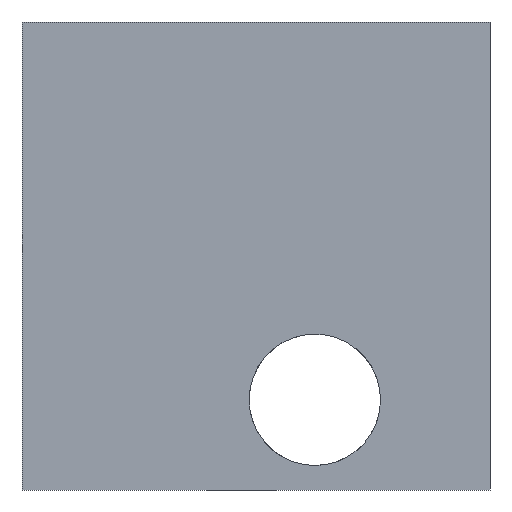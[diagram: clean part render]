
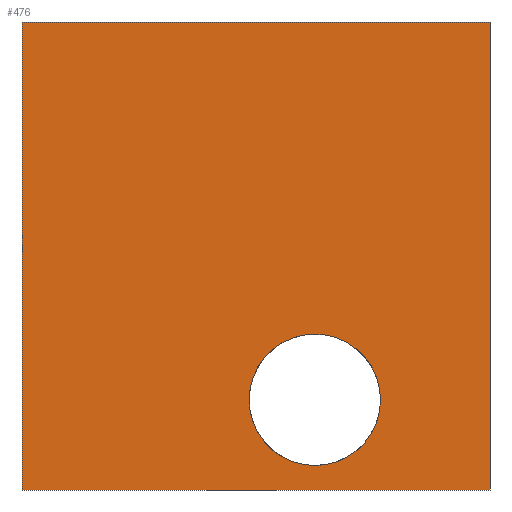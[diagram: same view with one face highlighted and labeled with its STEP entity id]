
A CAD part, front view. The second image highlights one B-rep face of the part: STEP entity #476.
In plain terms, the highlighted planar face has unit normal (0, -1, 0).
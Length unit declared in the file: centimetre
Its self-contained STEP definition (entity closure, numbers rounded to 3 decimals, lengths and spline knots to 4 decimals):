
#16 = VERTEX_POINT ( 'NONE', #1348 ) ;
#38 = CARTESIAN_POINT ( 'NONE',  ( 0., 0., 1000. ) ) ;
#77 = CARTESIAN_POINT ( 'NONE',  ( 1000., 0., 0. ) ) ;
#107 = DIRECTION ( 'NONE',  ( 1., 0., 0. ) ) ;
#116 = LINE ( 'NONE', #937, #766 ) ;
#171 = EDGE_CURVE ( 'NONE', #1454, #1444, #1142, .T. ) ;
#208 = CARTESIAN_POINT ( 'NONE',  ( 0., 0., 1000. ) ) ;
#217 = DIRECTION ( 'NONE',  ( 0., 0., 1. ) ) ;
#260 = EDGE_CURVE ( 'NONE', #618, #16, #116, .T. ) ;
#262 = EDGE_LOOP ( 'NONE', ( #369, #717 ) ) ;
#295 = EDGE_LOOP ( 'NONE', ( #1170, #1313, #972, #1102 ) ) ;
#340 = DIRECTION ( 'NONE',  ( 0., 0., -1. ) ) ;
#345 = FACE_BOUND ( 'NONE', #262, .T. ) ;
#369 = ORIENTED_EDGE ( 'NONE', *, *, #409, .F. ) ;
#409 = EDGE_CURVE ( 'NONE', #627, #1406, #441, .T. ) ;
#441 = CIRCLE ( 'NONE', #915, 140.3892 ) ;
#463 = AXIS2_PLACEMENT_3D ( 'NONE', #676, #696, #910 ) ;
#476 = ADVANCED_FACE ( 'NONE', ( #345, #1148 ), #819, .F. ) ;
#521 = CIRCLE ( 'NONE', #463, 140.3892 ) ;
#534 = EDGE_CURVE ( 'NONE', #1406, #627, #521, .T. ) ;
#535 = CARTESIAN_POINT ( 'NONE',  ( 0., 0., 1000. ) ) ;
#541 = CARTESIAN_POINT ( 'NONE',  ( 625.7103, 0., 333.1156 ) ) ;
#561 = VECTOR ( 'NONE', #912, 100. ) ;
#563 = AXIS2_PLACEMENT_3D ( 'NONE', #208, #1379, #217 ) ;
#580 = EDGE_CURVE ( 'NONE', #16, #1444, #1038, .T. ) ;
#618 = VERTEX_POINT ( 'NONE', #38 ) ;
#627 = VERTEX_POINT ( 'NONE', #1001 ) ;
#663 = VECTOR ( 'NONE', #107, 100. ) ;
#676 = CARTESIAN_POINT ( 'NONE',  ( 625.7103, 0., 192.7265 ) ) ;
#696 = DIRECTION ( 'NONE',  ( 0., -1., 0. ) ) ;
#717 = ORIENTED_EDGE ( 'NONE', *, *, #534, .F. ) ;
#725 = LINE ( 'NONE', #535, #1137 ) ;
#766 = VECTOR ( 'NONE', #340, 100. ) ;
#819 = PLANE ( 'NONE',  #563 ) ;
#849 = DIRECTION ( 'NONE',  ( 1., 0., 0. ) ) ;
#883 = DIRECTION ( 'NONE',  ( 0., -1., 0. ) ) ;
#889 = CARTESIAN_POINT ( 'NONE',  ( 625.7103, 0., 192.7265 ) ) ;
#898 = DIRECTION ( 'NONE',  ( 0., 0., -1. ) ) ;
#910 = DIRECTION ( 'NONE',  ( 0., 0., -1. ) ) ;
#912 = DIRECTION ( 'NONE',  ( 0., 0., -1. ) ) ;
#915 = AXIS2_PLACEMENT_3D ( 'NONE', #889, #883, #898 ) ;
#925 = CARTESIAN_POINT ( 'NONE',  ( 0., 0., 0. ) ) ;
#937 = CARTESIAN_POINT ( 'NONE',  ( 0., 0., 1000. ) ) ;
#972 = ORIENTED_EDGE ( 'NONE', *, *, #1350, .F. ) ;
#1001 = CARTESIAN_POINT ( 'NONE',  ( 625.7103, 0., 52.3373 ) ) ;
#1038 = LINE ( 'NONE', #925, #663 ) ;
#1102 = ORIENTED_EDGE ( 'NONE', *, *, #260, .T. ) ;
#1137 = VECTOR ( 'NONE', #849, 100. ) ;
#1142 = LINE ( 'NONE', #1381, #561 ) ;
#1148 = FACE_OUTER_BOUND ( 'NONE', #295, .T. ) ;
#1170 = ORIENTED_EDGE ( 'NONE', *, *, #580, .T. ) ;
#1267 = CARTESIAN_POINT ( 'NONE',  ( 1000., 0., 1000. ) ) ;
#1313 = ORIENTED_EDGE ( 'NONE', *, *, #171, .F. ) ;
#1348 = CARTESIAN_POINT ( 'NONE',  ( 0., 0., 0. ) ) ;
#1350 = EDGE_CURVE ( 'NONE', #618, #1454, #725, .T. ) ;
#1379 = DIRECTION ( 'NONE',  ( 0., 1., 0. ) ) ;
#1381 = CARTESIAN_POINT ( 'NONE',  ( 1000., 0., 1000. ) ) ;
#1406 = VERTEX_POINT ( 'NONE', #541 ) ;
#1444 = VERTEX_POINT ( 'NONE', #77 ) ;
#1454 = VERTEX_POINT ( 'NONE', #1267 ) ;
